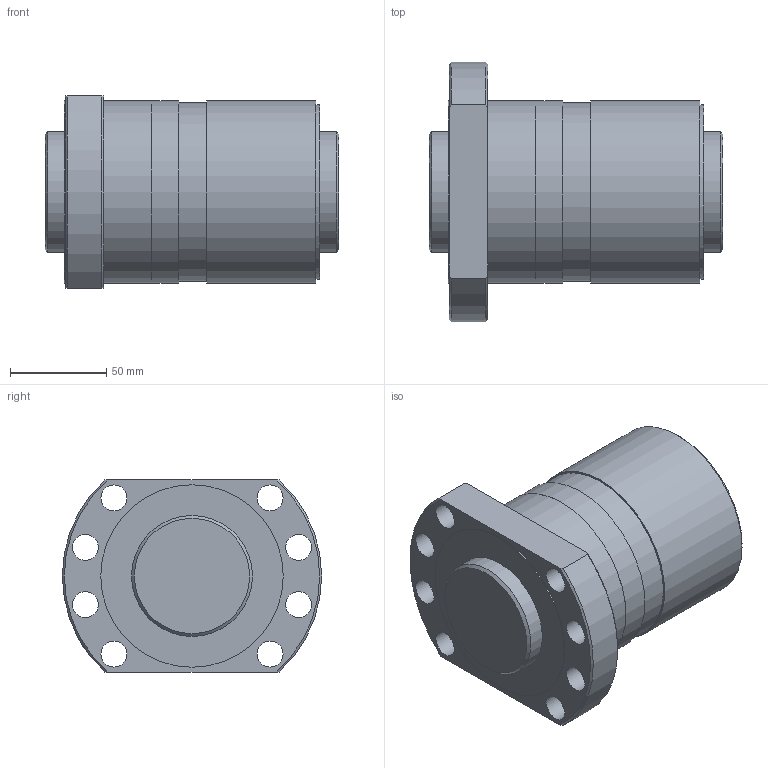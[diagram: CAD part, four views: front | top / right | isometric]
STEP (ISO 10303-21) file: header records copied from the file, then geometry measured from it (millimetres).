
FILE_DESCRIPTION(/* description */ ('STEP AP203'),/* implementation_level */ '2;1');
FILE_NAME(/* name */ 'SDAN6312VX-4G0+153LC0(0G000)',/* time_stamp */ '2024-07-04T10:22:52+02:00',/* author */ ('License CC BY-ND 4.0'),/* organization */ ('CADENAS'),/* preprocessor_version */ 'ST-DEVELOPER v19.3',/* originating_system */ 'PARTsolutions',/* authorisation */ ' ');
FILE_SCHEMA (('CONFIG_CONTROL_DESIGN'));
Length unit declared in the file: millimetre
Products named in the file (3): SDAN6312VX-4G0+153LC0(0G000); 0SDAN6312VX-40Shaft; SDAN6312VX-4_nut
Assembly tree (2 placements, depth 2):
  SDAN6312VX-4G0+153LC0(0G000)
    0SDAN6312VX-40Shaft
    SDAN6312VX-4_nut
Bounding box: 153 x 135 x 100 mm (x, y, z)
Volume: 1075909.4 mm3; surface area: 128356.4 mm2
Topology: 2 solids, 2 shells, 41 faces, 95 edges, 65 vertices
Faces by surface type: cylinder 21, plane 13, cone 7
Full cylindrical faces by diameter (mm): 5.2 x1, 6.917 x1, 13.5 x8, 63 x2, 91 x1, 93 x1, 93.1 x1, 95 x4
Entity records: 1143 total; most frequent: CARTESIAN_POINT 208, DIRECTION 188, ORIENTED_EDGE 128, EDGE_LOOP 90, FACE_BOUND 90, AXIS2_PLACEMENT_3D 90, EDGE_CURVE 64, VERTEX_POINT 56
